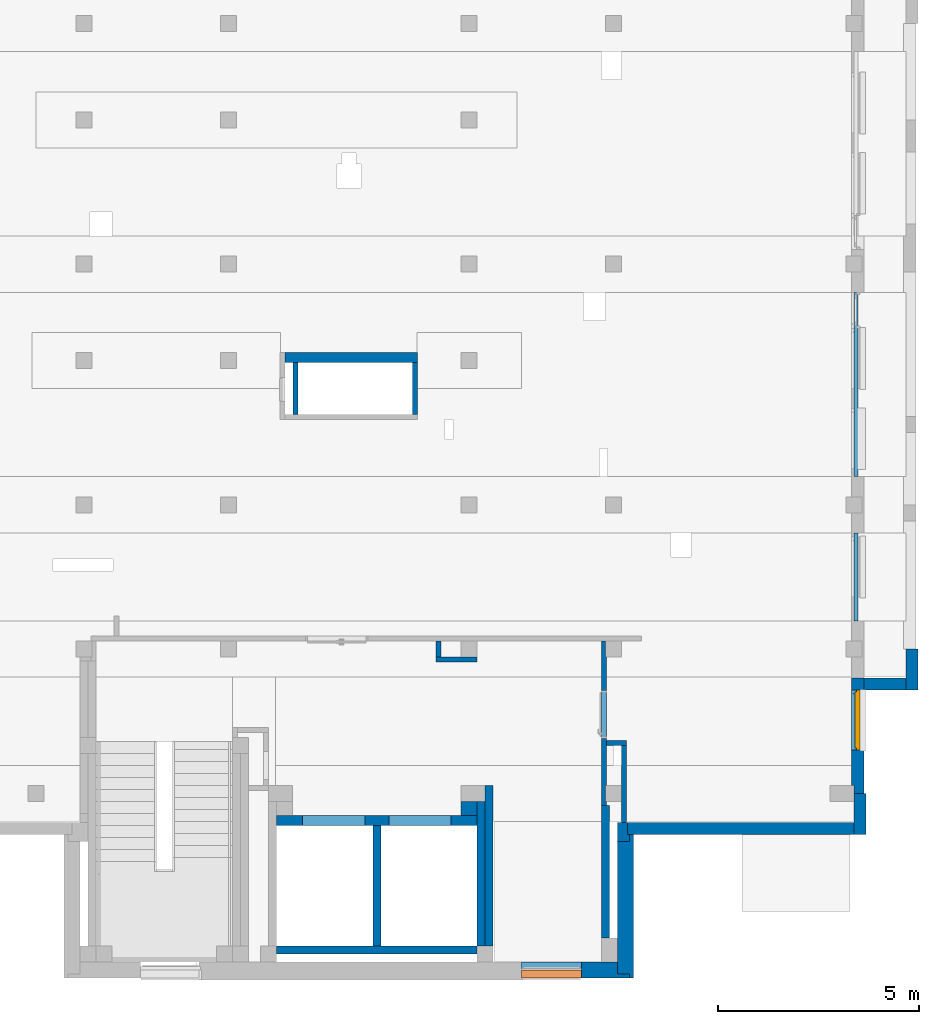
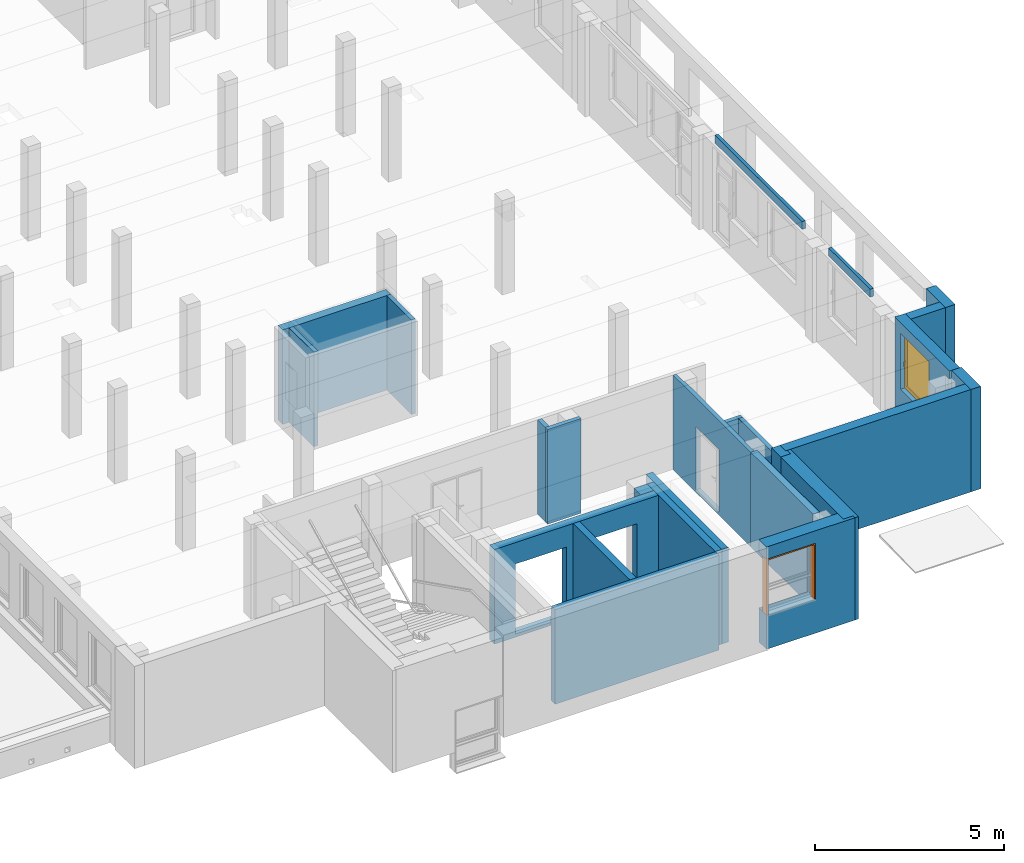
# One storey, part 7 of 27: 25 walls, 1 proxy, 1 window, 5 openings.
"""IFC4 building model written with IfcOpenShell, lengths in metres."""

from ifc_helpers import new_model, entity, si_unit, converted_unit, derived_unit, frame, frame_2d, origin, origin_with_axes, place, context, subcontext, project, spatial, polyline, rectangle, outline, extrude, clip, bounded_halfspace, closed_shell, open_shell, faceted_brep, surface_model, source, transform, mapped, material, layer, layer_set, layer_usage, element, fill, save


model = new_model("IFC4")

# Units and contexts
model_context = context("Model", 3, precision=1e-05, world=origin())
body_context = subcontext(model_context, "Body", "Model", "MODEL_VIEW")
ifc_project = project(units=[si_unit("LENGTHUNIT", "METRE"), si_unit("AREAUNIT", "SQUARE_METRE"), si_unit("VOLUMEUNIT", "CUBIC_METRE"), si_unit("MASSUNIT", "GRAM", prefix="KILO"), converted_unit("PLANEANGLEUNIT", "DEGREE", entity("IfcPlaneAngleMeasure", 0.0174532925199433), si_unit("PLANEANGLEUNIT", "RADIAN"), dimensions=[0, 0, 0, 0, 0, 0, 0]), derived_unit("THERMALTRANSMITTANCEUNIT", [(si_unit("POWERUNIT", "WATT"), 1), (si_unit("THERMODYNAMICTEMPERATUREUNIT", "KELVIN"), -1), (si_unit("LENGTHUNIT", "METRE"), -2)]), derived_unit("VOLUMETRICFLOWRATEUNIT", [(si_unit("LENGTHUNIT", "METRE"), 3), (converted_unit("TIMEUNIT", "hour", entity("IfcTimeMeasure", 3600.0), si_unit("TIMEUNIT", "SECOND"), dimensions=[0, 0, 1, 0, 0, 0, 0]), -1), (si_unit("LENGTHUNIT", "METRE"), -1)])], contexts=[model_context])

# Site, building, storey
site_placement = place(None, origin())
site = spatial("IfcSite", under=ifc_project, at=site_placement, Name="3. ASŘ", CompositionType="ELEMENT")
building_placement = place(site_placement, origin())
building = spatial("IfcBuilding", under=site, at=building_placement, Name="Pavilon C", CompositionType="ELEMENT")
storey_placement = place(building_placement, frame((0.0, 0.0, 7.2)))
storey = spatial("IfcBuildingStorey", under=building, at=storey_placement, Name="Půdorys 3.NP", CompositionType="ELEMENT", Elevation=7.2)

# Wall
ifc_material_1 = material(Name="ZELEZOBETONOVÁ KCE")
ifc_layer_1 = layer(ifc_material_1, 0.3)
ifc_layer_set_1 = layer_set([ifc_layer_1])
ifc_layer_usage_1 = layer_usage(ifc_layer_set_1, "AXIS2", "POSITIVE", 0.0)
wall_1_placement = place(storey_placement, frame((50.25, -1.02000000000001, -0.1), z_axis=(0.0, 0.0, 1.0), x_axis=(0.0, 1.0, 0.0)))
element("IfcWall", 1, at=wall_1_placement, inside=storey, material=ifc_layer_usage_1, Name="ZELEZOBETONOVÁ KCE", context=body_context, shape_type="SweptSolid", body=[
    extrude(rectangle(XDim=1.02, YDim=0.3, at=frame_2d((0.51, 0.15), x_axis=(1.0, 0.0))), origin_with_axes(), (0.0, 0.0, 1.0), 3.3),
])

# Wall, opening, window
ifc_material_2 = material(Name="PLYNOSILIKÁT")
ifc_layer_2 = layer(ifc_material_2, 0.32)
ifc_layer_set_2 = layer_set([ifc_layer_2])
ifc_layer_usage_2 = layer_usage(ifc_layer_set_2, "AXIS2", "POSITIVE", 0.0)
wall_2_placement = place(storey_placement, frame((50.2, -5.51980683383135e-15, -0.1), z_axis=(0.0, 0.0, 1.0), x_axis=(0.0, 1.0, 0.0)))
wall_2 = element("IfcWall", 2, at=wall_2_placement, inside=storey, material=ifc_layer_usage_2, Name="PLYNOSILIKÁT", context=body_context, shape_type="Clipping", body=[
    clip(extrude(rectangle(XDim=2.88, YDim=0.32, at=frame_2d((1.44, 0.16), x_axis=(1.0, 0.0))), origin_with_axes(), (0.0, 0.0, 1.0), 3.3), bounded_halfspace(frame((0.0999999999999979, 0.285, 3.05), z_axis=(0.0, 0.0, 1.0), x_axis=(0.0, 1.0, 0.0)), True, origin_with_axes(), polyline([(0.199999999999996, 0.25), (0.199999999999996, 0.32), (6.28386231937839e-17, 0.32), (6.28386231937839e-17, 0.25), (0.199999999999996, 0.25)]))),
])
opening_1_placement = place(wall_2_placement, frame((1.08, 0.0, 1.15), z_axis=(0.0, 1.0, 0.0), x_axis=(0.0, 0.0, 1.0)))
opening_1 = element("IfcOpeningElement", 3, at=opening_1_placement, cuts=wall_2, Name="Okenní otvor", ObjectType="Opening", context=body_context, shape_type="SweptSolid", body=[
    extrude(outline(polyline([(0.0, 1.5), (1.8, 1.5), (1.8, 0.0), (0.0, 0.0), (0.0, 1.5)])), origin_with_axes(), (0.0, 0.0, 1.0), 0.32),
])
shared_shape = source(origin_with_axes(), body_context, "Body", "SurfaceModel", [
    surface_model("IfcShellBasedSurfaceModel", [(0.0, 0.182, 1.8), (0.0, 0.182, -5.63337527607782e-18), (0.08, 0.182, -5.63337527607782e-18), (0.08, 0.182, 1.8), (0.0, 0.0899999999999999, 5.63337527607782e-18), (0.0, 0.0900000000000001, 1.8), (0.08, 0.0900000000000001, 1.8), (0.08, 0.0899999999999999, 5.63337527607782e-18)], [closed_shell([[[0, 1, 2, 3]], [[4, 5, 6, 7]], [[1, 0, 5, 4]], [[2, 1, 4, 7]], [[3, 2, 7, 6]], [[0, 3, 6, 5]]], orient=[[False], [False], [False], [False], [False], [False]])]),
    surface_model("IfcShellBasedSurfaceModel", [(1.42, 0.182, 1.8), (1.42, 0.182, -5.63337527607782e-18), (1.5, 0.182, -5.63337527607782e-18), (1.5, 0.182, 1.8), (1.42, 0.0899999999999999, 5.63337527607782e-18), (1.42, 0.0900000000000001, 1.8), (1.5, 0.0900000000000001, 1.8), (1.5, 0.0899999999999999, 5.63337527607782e-18)], [closed_shell([[[0, 1, 2, 3]], [[4, 5, 6, 7]], [[1, 0, 5, 4]], [[2, 1, 4, 7]], [[3, 2, 7, 6]], [[0, 3, 6, 5]]], orient=[[False], [False], [False], [False], [False], [False]])]),
    surface_model("IfcShellBasedSurfaceModel", [(0.08, 0.182, 0.08), (0.08, 0.182, -5.63337527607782e-18), (1.42, 0.182, -5.63337527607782e-18), (1.42, 0.182, 0.08), (0.08, 0.0899999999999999, 5.63337527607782e-18), (0.08, 0.0899999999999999, 0.08), (1.42, 0.0899999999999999, 0.08), (1.42, 0.0899999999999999, 5.63337527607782e-18)], [closed_shell([[[0, 1, 2, 3]], [[4, 5, 6, 7]], [[1, 0, 5, 4]], [[2, 1, 4, 7]], [[3, 2, 7, 6]], [[0, 3, 6, 5]]], orient=[[False], [False], [False], [False], [False], [False]])]),
    surface_model("IfcShellBasedSurfaceModel", [(0.08, 0.182, 1.8), (0.08, 0.182, 1.72), (1.42, 0.182, 1.72), (1.42, 0.182, 1.8), (0.08, 0.0900000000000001, 1.72), (0.08, 0.0900000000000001, 1.8), (1.42, 0.0900000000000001, 1.8), (1.42, 0.0900000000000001, 1.72)], [closed_shell([[[0, 1, 2, 3]], [[4, 5, 6, 7]], [[1, 0, 5, 4]], [[2, 1, 4, 7]], [[3, 2, 7, 6]], [[0, 3, 6, 5]]], orient=[[False], [False], [False], [False], [False], [False]])]),
    surface_model("IfcShellBasedSurfaceModel", [(0.05, 0.145, 1.75), (0.05, 0.145, 0.05), (0.13, 0.145, 0.05), (0.13, 0.145, 1.75), (0.05, 0.0599999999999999, 0.05), (0.05, 0.0600000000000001, 1.75), (0.13, 0.0600000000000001, 1.75), (0.13, 0.0599999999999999, 0.05)], [closed_shell([[[0, 1, 2, 3]], [[4, 5, 6, 7]], [[1, 0, 5, 4]], [[2, 1, 4, 7]], [[3, 2, 7, 6]], [[0, 3, 6, 5]]], orient=[[False], [False], [False], [False], [False], [False]])]),
    surface_model("IfcShellBasedSurfaceModel", [(1.37, 0.145, 1.75), (1.37, 0.145, 0.05), (1.45, 0.145, 0.05), (1.45, 0.145, 1.75), (1.37, 0.0599999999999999, 0.05), (1.37, 0.0600000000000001, 1.75), (1.45, 0.0600000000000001, 1.75), (1.45, 0.0599999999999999, 0.05)], [closed_shell([[[0, 1, 2, 3]], [[4, 5, 6, 7]], [[1, 0, 5, 4]], [[2, 1, 4, 7]], [[3, 2, 7, 6]], [[0, 3, 6, 5]]], orient=[[False], [False], [False], [False], [False], [False]])]),
    surface_model("IfcShellBasedSurfaceModel", [(0.13, 0.145, 0.13), (0.13, 0.145, 0.05), (1.37, 0.145, 0.05), (1.37, 0.145, 0.13), (0.13, 0.0599999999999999, 0.05), (0.13, 0.0599999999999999, 0.13), (1.37, 0.0599999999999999, 0.13), (1.37, 0.0599999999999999, 0.05)], [closed_shell([[[0, 1, 2, 3]], [[4, 5, 6, 7]], [[1, 0, 5, 4]], [[2, 1, 4, 7]], [[3, 2, 7, 6]], [[0, 3, 6, 5]]], orient=[[False], [False], [False], [False], [False], [False]])]),
    surface_model("IfcShellBasedSurfaceModel", [(0.13, 0.145, 1.75), (0.13, 0.145, 1.67), (1.37, 0.145, 1.67), (1.37, 0.145, 1.75), (0.13, 0.0600000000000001, 1.67), (0.13, 0.0600000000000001, 1.75), (1.37, 0.0600000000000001, 1.75), (1.37, 0.0600000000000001, 1.67)], [closed_shell([[[0, 1, 2, 3]], [[4, 5, 6, 7]], [[1, 0, 5, 4]], [[2, 1, 4, 7]], [[3, 2, 7, 6]], [[0, 3, 6, 5]]], orient=[[False], [False], [False], [False], [False], [False]])]),
    surface_model("IfcShellBasedSurfaceModel", [(0.0775, 0.06, 0.92), (0.0775, 0.06, 0.88), (0.1025, 0.06, 0.88), (0.1025, 0.06, 0.92), (0.0775, 0.05, 0.88), (0.0775, 0.05, 0.92), (0.1025, 0.05, 0.92), (0.1025, 0.05, 0.88)], [closed_shell([[[0, 1, 2, 3]], [[4, 5, 6, 7]], [[1, 0, 5, 4]], [[2, 1, 4, 7]], [[3, 2, 7, 6]], [[0, 3, 6, 5]]], orient=[[False], [False], [False], [False], [False], [False]])]),
    surface_model("IfcShellBasedSurfaceModel", [(0.1, 0.05, 0.9), (0.0986602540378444, 0.05, 0.905), (0.095, 0.05, 0.908660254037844), (0.09, 0.05, 0.91), (0.085, 0.05, 0.908660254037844), (0.0813397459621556, 0.05, 0.905), (0.08, 0.05, 0.9), (0.0813397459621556, 0.05, 0.895), (0.085, 0.05, 0.891339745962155), (0.09, 0.05, 0.89), (0.095, 0.05, 0.891339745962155), (0.0986602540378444, 0.05, 0.895), (0.1, 0.01, 0.9), (0.0986602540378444, 0.00500000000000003, 0.905), (0.095, 0.00133974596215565, 0.908660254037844), (0.09, 2.8421709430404e-17, 0.91), (0.085, 0.00133974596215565, 0.908660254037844), (0.0813397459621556, 0.00500000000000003, 0.905), (0.08, 0.01, 0.9), (0.0813397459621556, 0.015, 0.895), (0.085, 0.0186602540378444, 0.891339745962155), (0.09, 0.02, 0.89), (0.095, 0.0186602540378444, 0.891339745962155), (0.0986602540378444, 0.015, 0.895), (0.1, 0.01, 0.785), (0.0986602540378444, 0.005, 0.785), (0.095, 0.00133974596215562, 0.785), (0.09, 0.0, 0.785), (0.085, 0.00133974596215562, 0.785), (0.0813397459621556, 0.005, 0.785), (0.08, 0.01, 0.785), (0.0813397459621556, 0.015, 0.785), (0.085, 0.0186602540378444, 0.785), (0.09, 0.02, 0.785), (0.095, 0.0186602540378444, 0.785), (0.0986602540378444, 0.015, 0.785)], [open_shell([[[0, 1, 2, 3, 4, 5, 6, 7, 8, 9, 10, 11]], [[0, 12, 13, 1]], [[1, 13, 14, 2]], [[2, 14, 15, 3]], [[3, 15, 16, 4]], [[4, 16, 17, 5]], [[5, 17, 18, 6]], [[6, 18, 19, 7]], [[7, 19, 20, 8]], [[8, 20, 21, 9]], [[9, 21, 22, 10]], [[10, 22, 23, 11]], [[11, 23, 12, 0]], [[12, 24, 25, 13]], [[13, 25, 26, 14]], [[14, 26, 27, 15]], [[15, 27, 28, 16]], [[16, 28, 29, 17]], [[17, 29, 30, 18]], [[18, 30, 31, 19]], [[19, 31, 32, 20]], [[20, 32, 33, 21]], [[21, 33, 34, 22]], [[22, 34, 35, 23]], [[23, 35, 24, 12]]], orient=[[False], [False], [False], [False], [False], [False], [False], [False], [False], [False], [False], [False], [False], [False], [False], [False], [False], [False], [False], [False], [False], [False], [False], [False], [False]])]),
    surface_model("IfcShellBasedSurfaceModel", [(0.13, 0.1025, 0.13), (1.37, 0.1025, 0.13), (1.37, 0.1025, 1.67), (0.13, 0.1025, 1.67)], [open_shell([[[0, 1, 2, 3]]], orient=[[False]])]),
])
window_placement = place(opening_1_placement, frame((0.0, 1.5, 0.282000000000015), z_axis=(1.0, 0.0, 0.0), x_axis=(0.0, -1.0, 2.44929359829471e-16)))
window = element("IfcWindow", 4, at=window_placement, inside=storey, Name="O06", OverallHeight=1.8, OverallWidth=1.5, PartitioningType="USERDEFINED", PredefinedType="WINDOW", context=body_context, shape_type="MappedRepresentation", body=[
    mapped(shared_shape, transform((0.0, 0.0, 0.0), x_axis=(1.0, 0.0, 0.0), y_axis=(0.0, 1.0, 0.0), z_axis=(0.0, 0.0, 1.0), scale=1.0)),
])
fill(opening_1, window)

# Wall
ifc_material_3 = material(Name="ZELEZOBETONOVÁ KCE")
ifc_layer_3 = layer(ifc_material_3, 0.2)
ifc_layer_set_3 = layer_set([ifc_layer_3])
ifc_layer_usage_3 = layer_usage(ifc_layer_set_3, "AXIS2", "POSITIVE", 0.0)
wall_3_placement = place(storey_placement, frame((38.15, -3.8, -0.1), z_axis=(0.0, 0.0, 1.0), x_axis=(0.0, 1.0, 0.0)))
element("IfcWall", 5, at=wall_3_placement, inside=storey, material=ifc_layer_usage_3, Name="ZELEZOBETONOVÁ KCE", context=body_context, shape_type="SweptSolid", body=[
    extrude(rectangle(XDim=3.0, YDim=0.2, at=frame_2d((1.5, 0.1), x_axis=(1.0, 0.0))), origin_with_axes(), (0.0, 0.0, 1.0), 3.05),
])

# Wall, openings
ifc_material_4 = material(Name="ZDIVO Z CDm")
ifc_layer_4 = layer(ifc_material_4, 0.25)
ifc_layer_set_4 = layer_set([ifc_layer_4])
ifc_layer_usage_4 = layer_usage(ifc_layer_set_4, "AXIS2", "POSITIVE", 0.0)
wall_4_placement = place(storey_placement, frame((40.55, -0.550000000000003, -0.1), z_axis=(0.0, 0.0, 1.0), x_axis=(-1.0, 0.0, 0.0)))
wall_4 = element("IfcWall", 6, at=wall_4_placement, inside=storey, material=ifc_layer_usage_4, Name="ZDIVO Z CDm", context=body_context, shape_type="SweptSolid", body=[
    extrude(rectangle(XDim=5.0, YDim=0.25, at=frame_2d((2.5, 0.125), x_axis=(1.0, 0.0))), origin_with_axes(), (0.0, 0.0, 1.0), 3.05),
])
opening_2_placement = place(wall_4_placement, frame((0.65, 0.0, 0.1), z_axis=(0.0, 1.0, 0.0), x_axis=(0.0, 0.0, 1.0)))
element("IfcOpeningElement", 7, at=opening_2_placement, cuts=wall_4, Name="Dveřní otvor", ObjectType="Opening", context=body_context, shape_type="SweptSolid", body=[
    extrude(outline(polyline([(0.0, 1.55), (2.26, 1.55), (2.26, 0.0), (0.0, 0.0), (0.0, 1.55)])), origin_with_axes(), (0.0, 0.0, 1.0), 0.25),
])
opening_3_placement = place(wall_4_placement, frame((2.8, 0.0, 0.1), z_axis=(0.0, 1.0, 0.0), x_axis=(0.0, 0.0, 1.0)))
element("IfcOpeningElement", 8, at=opening_3_placement, cuts=wall_4, Name="Dveřní otvor", ObjectType="Opening", context=body_context, shape_type="SweptSolid", body=[
    extrude(outline(polyline([(0.0, 1.55), (2.26, 1.55), (2.26, 0.0), (0.0, 0.0), (0.0, 1.55)])), origin_with_axes(), (0.0, 0.0, 1.0), 0.25),
])

# Walls
ifc_material_5 = material(Name="ZDIVO Z CDm")
ifc_layer_5 = layer(ifc_material_5, 0.35)
ifc_layer_set_5 = layer_set([ifc_layer_5])
ifc_layer_usage_5 = layer_usage(ifc_layer_set_5, "AXIS2", "POSITIVE", 0.0)
wall_5_placement = place(storey_placement, frame((40.55, -0.200000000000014, -0.1), z_axis=(0.0, 0.0, 1.0), x_axis=(-1.0, 0.0, 0.0)))
element("IfcWall", 9, at=wall_5_placement, inside=storey, material=ifc_layer_usage_5, Name="ZDIVO Z CDm", context=body_context, shape_type="SweptSolid", body=[
    extrude(rectangle(XDim=0.4, YDim=0.35, at=frame_2d((0.2, 0.175), x_axis=(1.0, 0.0))), origin_with_axes(), (0.0, 0.0, 1.0), 3.05),
])
ifc_material_6 = material(Name="ZDIVO Z CDm")
ifc_layer_6 = layer(ifc_material_6, 0.125)
ifc_layer_set_6 = layer_set([ifc_layer_6])
ifc_layer_usage_6 = layer_usage(ifc_layer_set_6, "AXIS2", "POSITIVE", 0.0)
wall_6_placement = place(storey_placement, frame((40.55, 3.39999999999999, -0.1), z_axis=(0.0, 0.0, 1.0), x_axis=(-1.0, 0.0, 0.0)))
element("IfcWall", 10, at=wall_6_placement, inside=storey, material=ifc_layer_usage_6, Name="ZDIVO Z CDm", context=body_context, shape_type="SweptSolid", body=[
    extrude(rectangle(XDim=1.025, YDim=0.125, at=frame_2d((0.5125, 0.0625000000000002), x_axis=(1.0, 0.0))), origin_with_axes(), (0.0, 0.0, 1.0), 3.05),
])
ifc_material_7 = material(Name="ZELEZOBETONOVÁ KCE")
ifc_layer_7 = layer(ifc_material_7, 0.2)
ifc_layer_set_7 = layer_set([ifc_layer_7])
ifc_layer_usage_7 = layer_usage(ifc_layer_set_7, "AXIS2", "POSITIVE", 0.0)
wall_7_placement = place(storey_placement, frame((43.65, -0.299999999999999, -0.1), z_axis=(0.0, 0.0, 1.0), x_axis=(0.0, -1.0, 0.0)))
element("IfcWall", 11, at=wall_7_placement, inside=storey, material=ifc_layer_usage_7, Name="ZELEZOBETONOVÁ KCE", context=body_context, shape_type="SweptSolid", body=[
    extrude(rectangle(XDim=3.3, YDim=0.2, at=frame_2d((1.65, 0.1), x_axis=(1.0, 0.0))), origin_with_axes(), (0.0, 0.0, 1.0), 3.05),
])
ifc_material_8 = material(Name="ZDIVO Z CDm")
ifc_layer_8 = layer(ifc_material_8, 0.125)
ifc_layer_set_8 = layer_set([ifc_layer_8])
ifc_layer_usage_8 = layer_usage(ifc_layer_set_8, "AXIS2", "POSITIVE", 0.0)
wall_8_placement = place(storey_placement, frame((44.275, -0.720000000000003, -0.1), z_axis=(0.0, 0.0, 1.0), x_axis=(0.0, 1.0, 0.0)))
element("IfcWall", 12, at=wall_8_placement, inside=storey, material=ifc_layer_usage_8, Name="ZDIVO Z CDm", context=body_context, shape_type="SweptSolid", body=[
    extrude(rectangle(XDim=1.92, YDim=0.125, at=frame_2d((0.959999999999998, 0.0625), x_axis=(1.0, 0.0))), origin_with_axes(), (0.0, 0.0, 1.0), 3.05),
])
ifc_material_9 = material(Name="ZDIVO Z CDm")
ifc_layer_9 = layer(ifc_material_9, 0.125)
ifc_layer_set_9 = layer_set([ifc_layer_9])
ifc_layer_usage_9 = layer_usage(ifc_layer_set_9, "AXIS2", "POSITIVE", 0.0)
wall_9_placement = place(storey_placement, frame((44.275, 1.32499999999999, -0.1), z_axis=(0.0, 0.0, 1.0), x_axis=(-1.0, 0.0, 0.0)))
element("IfcWall", 13, at=wall_9_placement, inside=storey, material=ifc_layer_usage_9, Name="ZDIVO Z CDm", context=body_context, shape_type="SweptSolid", body=[
    extrude(rectangle(XDim=0.500000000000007, YDim=0.125, at=frame_2d((0.250000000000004, 0.0625000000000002), x_axis=(1.0, 0.0))), origin_with_axes(), (0.0, 0.0, 1.0), 3.05),
])
ifc_material_10 = material(Name="ZDIVO Z CDm")
ifc_layer_10 = layer(ifc_material_10, 0.125)
ifc_layer_set_10 = layer_set([ifc_layer_10])
ifc_layer_usage_10 = layer_usage(ifc_layer_set_10, "AXIS2", "POSITIVE", 0.0)
wall_10_placement = place(storey_placement, frame((39.65, 3.39999999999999, -0.1), z_axis=(0.0, 0.0, 1.0), x_axis=(0.0, 1.0, 0.0)))
element("IfcWall", 14, at=wall_10_placement, inside=storey, material=ifc_layer_usage_10, Name="ZDIVO Z CDm", context=body_context, shape_type="SweptSolid", body=[
    extrude(rectangle(XDim=0.4, YDim=0.125, at=frame_2d((0.2, 0.0625), x_axis=(1.0, 0.0))), origin_with_axes(), (0.0, 0.0, 1.0), 3.05),
])

# Wall, opening
ifc_material_11 = material(Name="ZDIVO Z CDm")
ifc_layer_11 = layer(ifc_material_11, 0.125)
ifc_layer_set_11 = layer_set([ifc_layer_11])
ifc_layer_usage_11 = layer_usage(ifc_layer_set_11, "AXIS2", "POSITIVE", 0.0)
wall_11_placement = place(storey_placement, frame((43.65, 3.79999999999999, -0.1), z_axis=(0.0, 0.0, 1.0), x_axis=(0.0, -1.0, 0.0)))
wall_11 = element("IfcWall", 15, at=wall_11_placement, inside=storey, material=ifc_layer_usage_11, Name="ZDIVO Z CDm", context=body_context, shape_type="SweptSolid", body=[
    extrude(outline(polyline([(-4.09999999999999, 0.0), (0.0, 0.0), (0.0, 0.125), (-0.0999999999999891, 0.125), (-0.0999999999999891, 0.100000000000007), (-0.499999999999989, 0.100000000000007), (-0.499999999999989, 0.125), (-3.69999999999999, 0.125), (-3.69999999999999, 0.100000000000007), (-4.09999999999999, 0.100000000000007), (-4.09999999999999, 0.0)])), frame((4.09999999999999, 0.0, 0.0), z_axis=(0.0, 0.0, 1.0), x_axis=(1.0, 0.0, 0.0)), (0.0, 0.0, 1.0), 3.05),
])
opening_4_placement = place(wall_11_placement, frame((2.425, 0.125, 0.1), z_axis=(0.0, -1.0, 0.0), x_axis=(0.0, 0.0, 1.0)))
element("IfcOpeningElement", 16, at=opening_4_placement, cuts=wall_11, Name="Dveřní otvor", ObjectType="Opening", context=body_context, shape_type="SweptSolid", body=[
    extrude(outline(polyline([(0.0, 1.2), (2.02, 1.2), (2.02, 0.0), (0.0, 0.0), (0.0, 1.2)])), origin_with_axes(), (0.0, 0.0, 1.0), 0.125),
])

# Walls
ifc_material_12 = material(Name="ZELEZOBETONOVÁ KCE")
ifc_layer_12 = layer(ifc_material_12, 0.2)
ifc_layer_set_12 = layer_set([ifc_layer_12])
ifc_layer_usage_12 = layer_usage(ifc_layer_set_12, "AXIS2", "POSITIVE", 0.0)
wall_12_placement = place(storey_placement, frame((40.55, -0.200000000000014, -0.1), z_axis=(0.0, 0.0, 1.0), x_axis=(0.0, -1.0, 0.0)))
element("IfcWall", 17, at=wall_12_placement, inside=storey, material=ifc_layer_usage_12, Name="ZELEZOBETONOVÁ KCE", context=body_context, shape_type="SweptSolid", body=[
    extrude(rectangle(XDim=3.6, YDim=0.2, at=frame_2d((1.8, 0.1), x_axis=(1.0, 0.0))), origin_with_axes(), (0.0, 0.0, 1.0), 3.05),
])
ifc_material_13 = material(Name="ZELEZOBETONOVÁ KCE")
ifc_layer_13 = layer(ifc_material_13, 0.2)
ifc_layer_set_13 = layer_set([ifc_layer_13])
ifc_layer_usage_13 = layer_usage(ifc_layer_set_13, "AXIS2", "POSITIVE", 0.0)
wall_13_placement = place(storey_placement, frame((40.75, 0.199999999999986, -0.1), z_axis=(0.0, 0.0, 1.0), x_axis=(0.0, -1.0, 0.0)))
element("IfcWall", 18, at=wall_13_placement, inside=storey, material=ifc_layer_usage_13, Name="ZELEZOBETONOVÁ KCE", context=body_context, shape_type="SweptSolid", body=[
    extrude(rectangle(XDim=4.0, YDim=0.2, at=frame_2d((2.0, 0.1), x_axis=(1.0, 0.0))), origin_with_axes(), (0.0, 0.0, 1.0), 3.05),
])
ifc_material_14 = material(Name="ZELEZOBETONOVÁ KCE")
ifc_layer_14 = layer(ifc_material_14, 0.3)
ifc_layer_set_14 = layer_set([ifc_layer_14])
ifc_layer_usage_14 = layer_usage(ifc_layer_set_14, "AXIS2", "POSITIVE", 0.0)
wall_14_placement = place(storey_placement, frame((50.2, 2.58, -0.1)))
element("IfcWall", 19, at=wall_14_placement, inside=storey, material=ifc_layer_usage_14, Name="ZELEZOBETONOVÁ KCE", context=body_context, shape_type="SweptSolid", body=[
    extrude(rectangle(XDim=1.05, YDim=0.3, at=frame_2d((0.525, 0.15), x_axis=(1.0, 0.0))), origin_with_axes(), (0.0, 0.0, 1.0), 3.3),
])
ifc_material_15 = material(Name="ZELEZOBETONOVÁ KCE")
ifc_layer_15 = layer(ifc_material_15, 0.3)
ifc_layer_set_15 = layer_set([ifc_layer_15])
ifc_layer_usage_15 = layer_usage(ifc_layer_set_15, "AXIS2", "POSITIVE", 0.0)
wall_15_placement = place(storey_placement, frame((51.55, 2.58, -0.1), z_axis=(0.0, 0.0, 1.0), x_axis=(0.0, 1.0, 0.0)))
element("IfcWall", 20, at=wall_15_placement, inside=storey, material=ifc_layer_usage_15, Name="ZELEZOBETONOVÁ KCE", context=body_context, shape_type="SweptSolid", body=[
    extrude(rectangle(XDim=1.02, YDim=0.3, at=frame_2d((0.51, 0.15), x_axis=(1.0, 0.0))), origin_with_axes(), (0.0, 0.0, 1.0), 3.3),
])
ifc_material_16 = material(Name="ZELEZOBETONOVÁ KCE")
ifc_layer_16 = layer(ifc_material_16, 0.2)
ifc_layer_set_16 = layer_set([ifc_layer_16])
ifc_layer_usage_16 = layer_usage(ifc_layer_set_16, "AXIS2", "POSITIVE", 0.0)
wall_16_placement = place(storey_placement, frame((40.55, -3.80000000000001, -0.1), z_axis=(0.0, 0.0, 1.0), x_axis=(-1.0, 1.81898940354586e-16, 0.0)))
element("IfcWall", 21, at=wall_16_placement, inside=storey, material=ifc_layer_usage_16, Name="ZELEZOBETONOVÁ KCE", context=body_context, shape_type="SweptSolid", body=[
    extrude(rectangle(XDim=5.0, YDim=0.2, at=frame_2d((2.5, 0.1), x_axis=(1.0, 0.0))), origin_with_axes(), (0.0, 0.0, 1.0), 3.05),
])
ifc_material_17 = material(Name="ZELEZOBETONOVÁ KCE")
ifc_layer_17 = layer(ifc_material_17, 0.3)
ifc_layer_set_17 = layer_set([ifc_layer_17])
ifc_layer_usage_17 = layer_usage(ifc_layer_set_17, "AXIS2", "POSITIVE", 0.0)
wall_17_placement = place(storey_placement, frame((44.3, -1.02, -0.1)))
element("IfcWall", 22, at=wall_17_placement, inside=storey, material=ifc_layer_usage_17, Name="ZELEZOBETONOVÁ KCE", context=body_context, shape_type="SweptSolid", body=[
    extrude(rectangle(XDim=5.65, YDim=0.3, at=frame_2d((2.825, 0.15), x_axis=(1.0, 0.0))), origin_with_axes(), (0.0, 0.0, 1.0), 3.3),
])
ifc_material_18 = material(Name="ZDIVO Z CDm")
ifc_layer_18 = layer(ifc_material_18, 0.48)
ifc_layer_set_18 = layer_set([ifc_layer_18])
ifc_layer_usage_18 = layer_usage(ifc_layer_set_18, "AXIS2", "POSITIVE", 0.0)
wall_18_placement = place(storey_placement, frame((44.3, -0.720000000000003, -0.1), z_axis=(0.0, 0.0, 1.0), x_axis=(-1.0, 0.0, 0.0)))
element("IfcWall", 23, at=wall_18_placement, inside=storey, material=ifc_layer_usage_18, Name="ZDIVO Z CDm", context=body_context, shape_type="SweptSolid", body=[
    extrude(outline(polyline([(-0.25, -0.48), (0.0, -0.48), (0.0, 0.0), (-0.3, 0.0), (-0.3, -0.18), (-0.25, -0.18), (-0.25, -0.48)])), frame((0.25, 0.48, 0.0), z_axis=(0.0, 0.0, 1.0), x_axis=(1.0, 0.0, 0.0)), (0.0, 0.0, 1.0), 3.3),
])
ifc_material_19 = material(Name="ZDIVO Z CDm")
ifc_layer_19 = layer(ifc_material_19, 0.125)
ifc_layer_set_19 = layer_set([ifc_layer_19])
ifc_layer_usage_19 = layer_usage(ifc_layer_set_19, "AXIS2", "POSITIVE", 0.0)
wall_19_placement = place(storey_placement, frame((35.9625, 10.75, -0.1), z_axis=(0.0, 0.0, 1.0), x_axis=(0.0, -1.0, 0.0)))
element("IfcWall", 24, at=wall_19_placement, inside=storey, material=ifc_layer_usage_19, Name="ZDIVO Z CDm", context=body_context, shape_type="SweptSolid", body=[
    extrude(rectangle(XDim=1.29999999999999, YDim=0.125, at=frame_2d((0.649999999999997, 0.0625), x_axis=(1.0, 0.0))), origin_with_axes(), (0.0, 0.0, 1.0), 3.05),
])
ifc_material_20 = material(Name="ZDIVO Z CDm")
ifc_layer_20 = layer(ifc_material_20, 0.25)
ifc_layer_set_20 = layer_set([ifc_layer_20])
ifc_layer_usage_20 = layer_usage(ifc_layer_set_20, "AXIS2", "POSITIVE", 0.0)
wall_20_placement = place(storey_placement, frame((35.7625, 10.75, -0.1)))
element("IfcWall", 25, at=wall_20_placement, inside=storey, material=ifc_layer_usage_20, Name="ZDIVO Z CDm", context=body_context, shape_type="SweptSolid", body=[
    extrude(rectangle(XDim=3.3, YDim=0.25, at=frame_2d((1.65, 0.125), x_axis=(1.0, 0.0))), origin_with_axes(), (0.0, 0.0, 1.0), 3.05),
])
ifc_material_21 = material(Name="ZDIVO Z CDm")
ifc_layer_21 = layer(ifc_material_21, 0.125)
ifc_layer_set_21 = layer_set([ifc_layer_21])
ifc_layer_usage_21 = layer_usage(ifc_layer_set_21, "AXIS2", "POSITIVE", 0.0)
wall_21_placement = place(storey_placement, frame((38.9375, 10.75, -0.1), z_axis=(0.0, 0.0, 1.0), x_axis=(0.0, -1.0, 0.0)))
element("IfcWall", 26, at=wall_21_placement, inside=storey, material=ifc_layer_usage_21, Name="ZDIVO Z CDm", context=body_context, shape_type="SweptSolid", body=[
    extrude(rectangle(XDim=1.29999999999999, YDim=0.125, at=frame_2d((0.649999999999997, 0.0625), x_axis=(1.0, 0.0))), origin_with_axes(), (0.0, 0.0, 1.0), 3.05),
])
ifc_material_22 = material(Name="EPS")
ifc_layer_22 = layer(ifc_material_22, 0.1)
ifc_material_23 = material(Name="ZELEZOBETONOVÁ KCE")
ifc_layer_23 = layer(ifc_material_23, 0.3)
ifc_layer_set_22 = layer_set([ifc_layer_22, ifc_layer_23])
ifc_layer_usage_22 = layer_usage(ifc_layer_set_22, "AXIS2", "POSITIVE", -0.1)
wall_22_placement = place(storey_placement, frame((44.45, -4.6, -0.1), z_axis=(0.0, 0.0, 1.0), x_axis=(0.0, 1.0, 0.0)))
element("IfcWall", 27, at=wall_22_placement, inside=storey, material=ifc_layer_usage_22, Name="ZELEZOBETONOVÁ KCE", context=body_context, shape_type="SweptSolid", body=[
    extrude(outline(polyline([(0.0, -0.4), (3.58, -0.4), (3.58, -0.3), (3.4, -0.3), (3.4, 0.0), (0.1, 0.0), (0.1, -0.3), (0.0, -0.3), (0.0, -0.4)])), frame((0.0, 0.4, 0.0), z_axis=(0.0, 0.0, 1.0), x_axis=(1.0, 0.0, 0.0)), (0.0, 0.0, 1.0), 3.3),
])

# Wall, opening, proxy
ifc_material_24 = material(Name="EPS")
ifc_layer_24 = layer(ifc_material_24, 0.1)
ifc_material_25 = material(Name="ZELEZOBETONOVÁ KCE")
ifc_layer_25 = layer(ifc_material_25, 0.3)
ifc_layer_set_23 = layer_set([ifc_layer_24, ifc_layer_25])
ifc_layer_usage_23 = layer_usage(ifc_layer_set_23, "AXIS2", "POSITIVE", -0.1)
wall_23_placement = place(storey_placement, frame((41.65, -4.6, -0.1)))
wall_23 = element("IfcWall", 28, at=wall_23_placement, inside=storey, material=ifc_layer_usage_23, Name="ZELEZOBETONOVÁ KCE", context=body_context, shape_type="SweptSolid", body=[
    extrude(outline(polyline([(0.0, 0.0), (2.7, 0.0), (2.7, 0.1), (2.4, 0.1), (2.4, 0.4), (0.0, 0.4), (0.0, 0.0)])), origin_with_axes(), (0.0, 0.0, 1.0), 3.3),
])
opening_5_placement = place(wall_23_placement, frame((0.0, 0.0, 1.1), z_axis=(0.0, 1.0, 0.0), x_axis=(0.0, 0.0, 1.0)))
opening_5 = element("IfcOpeningElement", 29, at=opening_5_placement, cuts=wall_23, Name="Okenní otvor", ObjectType="Opening", context=body_context, shape_type="SweptSolid", body=[
    extrude(outline(polyline([(0.0, 1.5), (1.8, 1.5), (1.8, 0.0), (0.0, 0.0), (0.0, 1.5)])), origin_with_axes(), (0.0, 0.0, 1.0), 0.1),
    extrude(outline(polyline([(0.0, 1.5), (1.8, 1.5), (1.8, 0.0), (0.0, 0.0), (0.0, 1.5)])), frame((0.0, 0.0, 0.1), z_axis=(0.0, 0.0, 1.0), x_axis=(1.0, 0.0, 0.0)), (0.0, 0.0, 1.0), 0.3),
])
ifc_material_26 = material(Name="EPS")
proxy_placement = place(opening_5_placement, origin())
proxy = element("IfcBuildingElementProxy", 30, at=proxy_placement, inside=storey, material=ifc_material_26, context=body_context, shape_type="Brep", body=[
    faceted_brep([(0.0, 1.5, 0.2), (0.0, 1.5, 0.0), (1.8, 1.5, 0.0), (1.8, 1.5, 0.2), (1.8, 0.0, 0.0), (1.8, 0.0, 0.2), (0.0, 1.46, 0.0), (0.0, 1.46, 0.2), (0.0, 0.0, 0.2), (0.0, 0.0399999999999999, 0.2), (1.76, 0.04, 0.2), (1.76, 1.46, 0.2), (1.76, 1.46, 0.0), (1.76, 0.04, 0.0), (0.0, 0.0399999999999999, 0.0), (0.0, 0.0, 0.0)], [[[0, 1, 2, 3]], [[2, 4, 5, 3]], [[6, 1, 0, 7]], [[7, 0, 3, 5, 8, 9, 10, 11]], [[1, 6, 12, 13, 14, 15, 4, 2]], [[6, 7, 11, 12]], [[15, 8, 5, 4]], [[9, 14, 13, 10]], [[15, 14, 9, 8]], [[10, 13, 12, 11]]], orient=[[False], [False], [False], [False], [False], [False], [False], [False], [False], [False]]),
])
fill(opening_5, proxy)

# Walls
ifc_material_27 = material(Name="EPS")
ifc_layer_26 = layer(ifc_material_27, 0.1)
ifc_layer_set_24 = layer_set([ifc_layer_26])
ifc_layer_usage_24 = layer_usage(ifc_layer_set_24, "AXIS2", "POSITIVE", 0.0)
wall_24_placement = place(storey_placement, frame((49.95, 6.49999999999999, 2.95), z_axis=(0.0, 0.0, 1.0), x_axis=(0.0, -1.0, 0.0)))
element("IfcWall", 31, at=wall_24_placement, inside=storey, material=ifc_layer_usage_24, Name="EPS", context=body_context, shape_type="SweptSolid", body=[
    extrude(rectangle(XDim=2.2, YDim=0.1, at=frame_2d((1.1, 0.05), x_axis=(1.0, 0.0))), origin_with_axes(), (0.0, 0.0, 1.0), 0.25),
])
ifc_material_28 = material(Name="EPS")
ifc_layer_27 = layer(ifc_material_28, 0.1)
ifc_layer_set_25 = layer_set([ifc_layer_27])
ifc_layer_usage_25 = layer_usage(ifc_layer_set_25, "AXIS2", "POSITIVE", 0.0)
wall_25_placement = place(storey_placement, frame((49.95, 12.5, 2.95), z_axis=(0.0, 0.0, 1.0), x_axis=(0.0, -1.0, 0.0)))
element("IfcWall", 32, at=wall_25_placement, inside=storey, material=ifc_layer_usage_25, Name="EPS", context=body_context, shape_type="SweptSolid", body=[
    extrude(rectangle(XDim=4.6, YDim=0.1, at=frame_2d((2.3, 0.05), x_axis=(1.0, 0.0))), origin_with_axes(), (0.0, 0.0, 1.0), 0.25),
])

save(model, "model.ifc")
